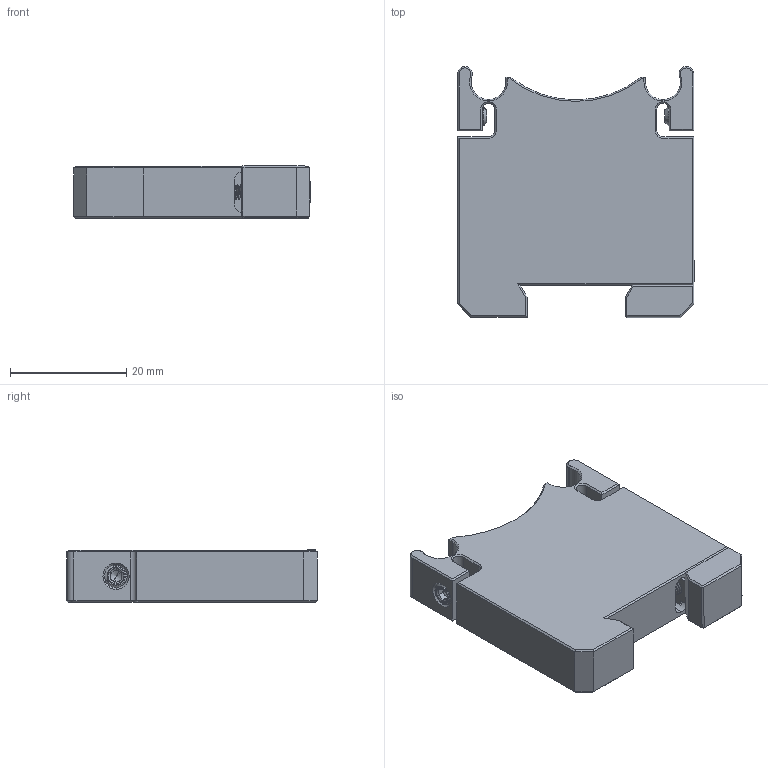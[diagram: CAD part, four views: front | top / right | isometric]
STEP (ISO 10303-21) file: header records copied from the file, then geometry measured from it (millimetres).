
FILE_DESCRIPTION((''),'2;1');
FILE_NAME('LRA30-B2_ASM','2024-12-04T16:40:16',('R&D'),(''),'CREO PARAMETRIC BY PTC INC, 2021063','CREO PARAMETRIC BY PTC INC, 2021063','');
FILE_SCHEMA(('CONFIG_CONTROL_DESIGN'));
Products named in the file (9): LRA30-B2-A3; LRA30-B2-A4; LRA30-B2-A5; LRA30-B2-A6; LRA30-B2-A7; LRA30-B2-A8; LRA30-B2-A2_ASM; LRA30-B2-A1_ASM; LRA30-B2_ASM
Assembly tree (8 placements, depth 4):
  LRA30-B2_ASM
    LRA30-B2-A1_ASM
      LRA30-B2-A2_ASM
        LRA30-B2-A3
        LRA30-B2-A4
        LRA30-B2-A5
        LRA30-B2-A6
        LRA30-B2-A7
        LRA30-B2-A8
Bounding box: 40.74 x 43.16 x 8.98 mm (x, y, z)
Volume: 12719.3 mm3; surface area: 6196 mm2
Topology: 6 solids, 6 shells, 491 faces, 1309 edges, 822 vertices
Faces by surface type: cylinder 226, plane 145, cone 61, bspline 51, torus 4, extrusion 4
Entity records: 46321 total; most frequent: CARTESIAN_POINT 35111, ORIENTED_EDGE 2598, DIRECTION 1816, EDGE_CURVE 1299, VERTEX_POINT 822, VECTOR 610, LINE 606, AXIS2_PLACEMENT_3D 603
